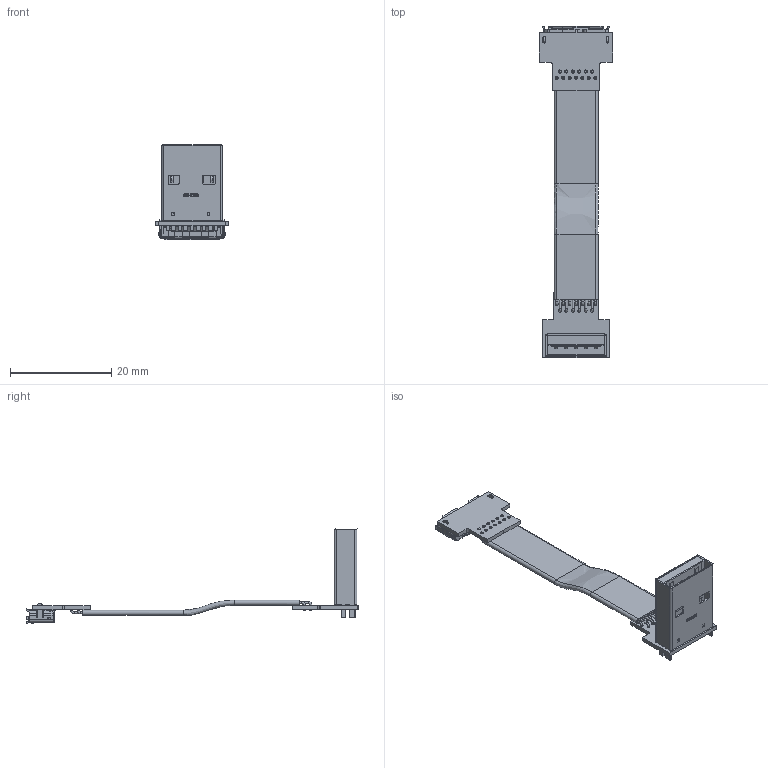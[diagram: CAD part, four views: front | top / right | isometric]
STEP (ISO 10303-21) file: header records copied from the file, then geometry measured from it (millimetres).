
FILE_DESCRIPTION(('Open CASCADE Model'),'2;1');
FILE_NAME('Open CASCADE Shape Model','2022-04-17T17:34:18',('Author'),( 'Open CASCADE'),'Open CASCADE STEP processor 6.8','Open CASCADE 6.8' ,'Unknown');
FILE_SCHEMA(('AUTOMOTIVE_DESIGN { 1 0 10303 214 1 1 1 1 }'));
Length unit declared in the file: millimetre
Products named in the file (42): PCB; Board; Open CASCADE STEP translator 6.8 14.1.1; Designator46; USB_公头_20211210（2）; Designator63; microusb3_female; Free-Models; cable13-US1A
Assembly tree (41 placements, depth 3):
  PCB
    Board
      Open CASCADE STEP translator 6.8 14.1.1
    Designator46
      USB_公头_20211210（2）
      USB_公头_20211210（2）
      USB_公头_20211210（2）
      USB_公头_20211210（2）
      USB_公头_20211210（2）
      USB_公头_20211210（2）
      USB_公头_20211210（2）
      USB_公头_20211210（2）
    Designator63
      microusb3_female
    Free-Models
      cable13-US1A
      cable13-US1A
      cable13-US1A
      cable13-US1A
      cable13-US1A
      cable13-US1A
      cable13-US1A
      cable13-US1A
      cable13-US1A
      cable13-US1A
      cable13-US1A
      cable13-US1A
      cable13-US1A
      cable13-US1A
      cable13-US1A
      cable13-US1A
      cable13-US1A
      cable13-US1A
      cable13-US1A
      cable13-US1A
      cable13-US1A
      cable13-US1A
      cable13-US1A
      cable13-US1A
      cable13-US1A
      cable13-US1A
      cable13-US1A
Bounding box: 14.48 x 65.68 x 18.93 mm (x, y, z)
Volume: 1163.8 mm3; surface area: 4299 mm2
Topology: 38 solids, 38 shells, 1088 faces, 2828 edges, 1826 vertices
Faces by surface type: plane 664, cylinder 344, bspline 33, torus 30, sphere 8, extrusion 6, cone 3
Full cylindrical faces by diameter (mm): 0.4 x59, 0.55 x13, 0.6 x13, 0.85 x2, 0.95 x7
Entity records: 39800 total; most frequent: CARTESIAN_POINT 7651, ORIENTED_EDGE 5634, DIRECTION 5593, EDGE_CURVE 2817, VECTOR 1929, LINE 1923, AXIS2_PLACEMENT_3D 1832, VERTEX_POINT 1826
